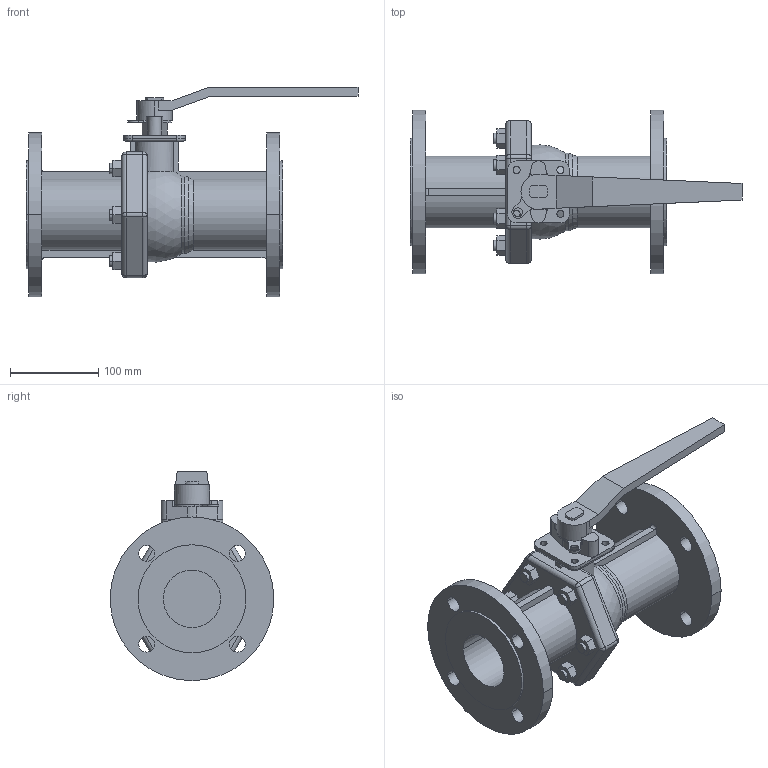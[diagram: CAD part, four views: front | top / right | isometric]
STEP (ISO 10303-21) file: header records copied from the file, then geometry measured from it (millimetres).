
FILE_DESCRIPTION( (''), '2;1');
FILE_NAME ('PC2091.16192.BLV-2SF EN PN16 65A_7126.stp','2026-05-28T09:13:09',(''),(''),'spGate 21.9.4 (****-****-****-****)','','');
FILE_SCHEMA (('AUTOMOTIVE_DESIGN'));
Length unit declared in the file: millimetre
Products named in the file (2): Assembly; BLV-2SFEN 65A
Assembly tree (1 placements, depth 2):
  Assembly
    BLV-2SFEN 65A
Bounding box: 375.2 x 185 x 236.5 mm (x, y, z)
Volume: 2001806.2 mm3; surface area: 312625.3 mm2
Topology: 1 solids, 1 shells, 243 faces, 631 edges, 395 vertices
Faces by surface type: plane 116, cylinder 106, sphere 13, bspline 8
Entity records: 12613 total; most frequent: CARTESIAN_POINT 1595, DIRECTION 1276, ORIENTED_EDGE 1238, COLOUR_RGB 863, PRESENTATION_STYLE_ASSIGNMENT 863, STYLED_ITEM 863, EDGE_CURVE 619, DRAUGHTING_PRE_DEFINED_CURVE_FONT 619
